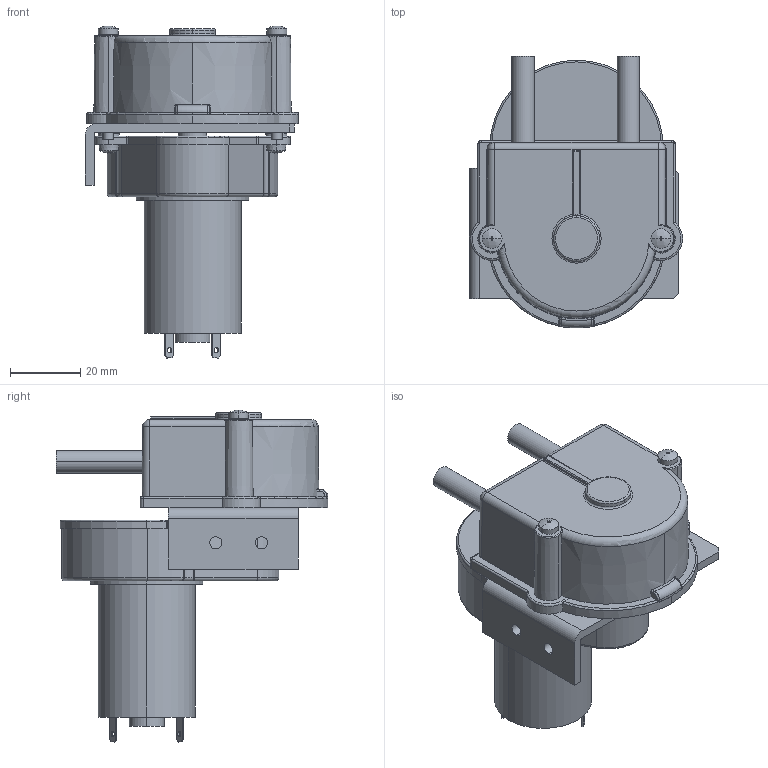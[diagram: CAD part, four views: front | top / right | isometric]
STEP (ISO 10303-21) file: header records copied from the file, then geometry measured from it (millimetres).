
FILE_DESCRIPTION (( 'STEP AP203' ), '1' );
FILE_NAME ('200 series dc r motor.STEP', '2024-07-09T14:05:08', ( '' ), ( '' ), 'SwSTEP 2.0', 'SolidWorks 2017', '' );
FILE_SCHEMA (( 'CONFIG_CONTROL_DESIGN' ));
Length unit declared in the file: millimetre
Products named in the file (23): 52413-1 NEW 200 SERIES 3mm TUBE STOP_1_1; 200 series dc r motor; 7_1_1; 2; 52412-2 NEW 200 SERIES BODY_1_1; 6_1_1_1; 1_1_1_1; screw_gbt_15856_1_st3_5x16_z_1_1; r motor_1; 9_1_1; 3_1_1_1; 8_1_1; 5_1_1_1; tube_1_1; m3 x 30 screw_1; 10_1_1; 2_1_1_1; 200 series pump head_1; 52411-2 NEW 200 SERIES BACK PLATE_1_1; 12_1_1; 4_1_1_1; 13_1; 11_1_1
Assembly tree (24 placements, depth 3):
  200 series dc r motor
    r motor_1
      1_1_1_1
      2_1_1_1
      3_1_1_1
      4_1_1_1
      5_1_1_1
      6_1_1_1
      7_1_1
      8_1_1
      9_1_1
      10_1_1
      11_1_1
      12_1_1
      13_1
    200 series pump head_1
      52412-2 NEW 200 SERIES BODY_1_1
      52411-2 NEW 200 SERIES BACK PLATE_1_1
      52413-1 NEW 200 SERIES 3mm TUBE STOP_1_1  x2
      tube_1_1
      screw_gbt_15856_1_st3_5x16_z_1_1
    m3 x 30 screw_1  x2
    2
Bounding box: 60.7 x 77.38 x 94.52 mm (x, y, z)
Volume: 97332 mm3; surface area: 48107.2 mm2
Topology: 22 solids, 24 shells, 839 faces, 2088 edges, 1311 vertices
Faces by surface type: plane 317, cylinder 275, torus 100, cone 99, bspline 30, sphere 18
Entity records: 29304 total; most frequent: CARTESIAN_POINT 7676, DIRECTION 4131, ORIENTED_EDGE 3958, EDGE_CURVE 1979, AXIS2_PLACEMENT_3D 1597, VERTEX_POINT 1244, LINE 937, VECTOR 937
